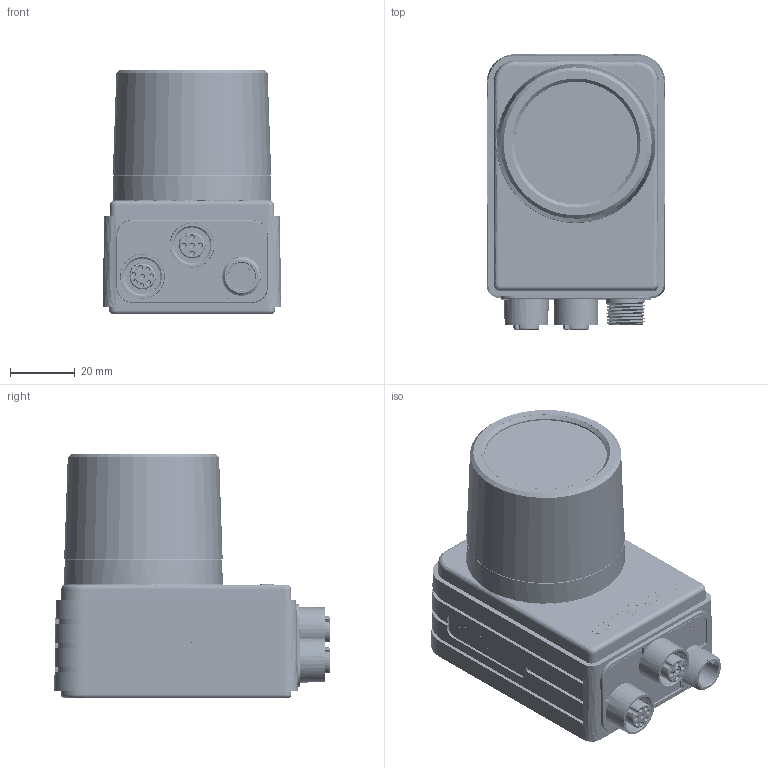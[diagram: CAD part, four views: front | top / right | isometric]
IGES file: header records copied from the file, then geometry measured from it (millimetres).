
Start section: SolidWorks IGES file using analytic representation for surfaces
Global section: file name: Y:\IS011\IS011-03\IS011-03_1-25-13.IGS; native system: SolidWorks 2012; preprocessor: SolidWorks 2012; author: rgainer; date: 130125.082904; units: millimetre
Bounding box: 55 x 84.81 x 75 mm (x, y, z)
Surface area: 63171.9 mm2 (no closed solid volume)
Topology: 0 solids, 0 shells, 2301 faces, 25948 edges, 25876 vertices
Faces by surface type: bspline 1583, revolution 718
